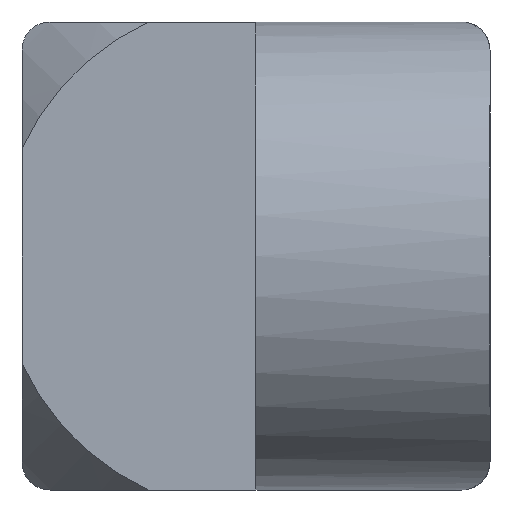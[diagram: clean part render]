
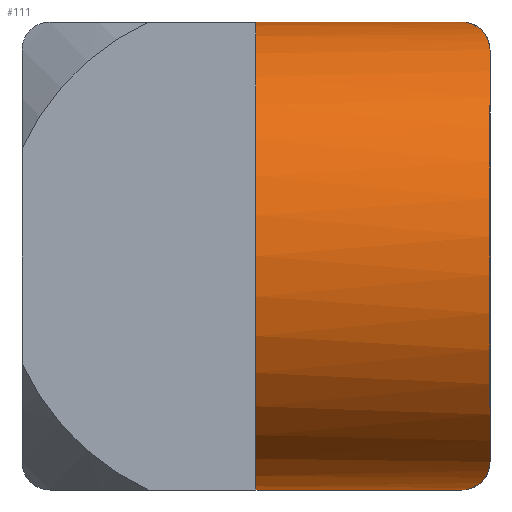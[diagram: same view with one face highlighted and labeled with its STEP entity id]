
A CAD part, left-side view. The second image highlights one B-rep face of the part: STEP entity #111.
In plain terms, the highlighted cylindrical face has radius 12.5 mm (diameter 25 mm), a partial arc.
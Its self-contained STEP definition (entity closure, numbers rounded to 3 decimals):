
#111 = ADVANCED_FACE( '', ( #212 ), #213, .T. );
#212 = FACE_OUTER_BOUND( '', #314, .T. );
#213 = CYLINDRICAL_SURFACE( '', #315, 12.5 );
#314 = EDGE_LOOP( '', ( #558, #559, #560, #561, #562, #563 ) );
#315 = AXIS2_PLACEMENT_3D( '', #564, #565, #566 );
#558 = ORIENTED_EDGE( '', *, *, #581, .T. );
#559 = ORIENTED_EDGE( '', *, *, #646, .T. );
#560 = ORIENTED_EDGE( '', *, *, #603, .T. );
#561 = ORIENTED_EDGE( '', *, *, #598, .T. );
#562 = ORIENTED_EDGE( '', *, *, #595, .F. );
#563 = ORIENTED_EDGE( '', *, *, #630, .F. );
#564 = CARTESIAN_POINT( '', ( 12.5, 25., 0. ) );
#565 = DIRECTION( '', ( 0., 1., 0. ) );
#566 = DIRECTION( '', ( 0., 0., -1. ) );
#581 = EDGE_CURVE( '', #660, #658, #661, .T. );
#595 = EDGE_CURVE( '', #686, #688, #689, .T. );
#598 = EDGE_CURVE( '', #693, #688, #694, .T. );
#603 = EDGE_CURVE( '', #701, #693, #702, .T. );
#630 = EDGE_CURVE( '', #660, #686, #744, .T. );
#646 = EDGE_CURVE( '', #658, #701, #768, .F. );
#658 = VERTEX_POINT( '', #785 );
#660 = VERTEX_POINT( '', #788 );
#661 = LINE( '', #789, #790 );
#686 = VERTEX_POINT( '', #847 );
#688 = VERTEX_POINT( '', #850 );
#689 = LINE( '', #851, #852 );
#693 = VERTEX_POINT( '', #868 );
#694 = B_SPLINE_CURVE_WITH_KNOTS( '', 3, ( #869, #870, #871, #872, #873, #874, #875, #876, #877, #878, #879, #880 ), .UNSPECIFIED., .F., .F., ( 4, 2, 2, 2, 2, 4 ), ( 0., 0.002, 0.003, 0.005, 0.006, 0.006 ), .UNSPECIFIED. );
#701 = VERTEX_POINT( '', #895 );
#702 = CIRCLE( '', #896, 12.5 );
#744 = CIRCLE( '', #1018, 12.5 );
#768 = B_SPLINE_CURVE_WITH_KNOTS( '', 3, ( #1053, #1054, #1055, #1056, #1057, #1058, #1059, #1060, #1061, #1062, #1063, #1064 ), .UNSPECIFIED., .F., .F., ( 4, 2, 2, 2, 2, 4 ), ( 0., 0.002, 0.003, 0.005, 0.006, 0.006 ), .UNSPECIFIED. );
#785 = CARTESIAN_POINT( '', ( 12.5, 1.5, -12.5 ) );
#788 = CARTESIAN_POINT( '', ( 12.5, 12.5, -12.5 ) );
#789 = CARTESIAN_POINT( '', ( 12.5, 25., -12.5 ) );
#790 = VECTOR( '', #1078, 1000. );
#847 = CARTESIAN_POINT( '', ( 12.5, 12.5, 12.5 ) );
#850 = CARTESIAN_POINT( '', ( 12.5, 1.5, 12.5 ) );
#851 = CARTESIAN_POINT( '', ( 12.5, 25., 12.5 ) );
#852 = VECTOR( '', #1087, 1000. );
#868 = CARTESIAN_POINT( '', ( 6.563, 0., 11. ) );
#869 = CARTESIAN_POINT( '', ( 6.563, 0., 11. ) );
#870 = CARTESIAN_POINT( '', ( 7.037, 0., 11.256 ) );
#871 = CARTESIAN_POINT( '', ( 7.518, 0.062, 11.476 ) );
#872 = CARTESIAN_POINT( '', ( 8.497, 0.249, 11.853 ) );
#873 = CARTESIAN_POINT( '', ( 8.998, 0.375, 12.01 ) );
#874 = CARTESIAN_POINT( '', ( 9.994, 0.66, 12.257 ) );
#875 = CARTESIAN_POINT( '', ( 10.492, 0.818, 12.348 ) );
#876 = CARTESIAN_POINT( '', ( 11.242, 1.068, 12.439 ) );
#877 = CARTESIAN_POINT( '', ( 11.492, 1.153, 12.462 ) );
#878 = CARTESIAN_POINT( '', ( 11.995, 1.325, 12.492 ) );
#879 = CARTESIAN_POINT( '', ( 12.249, 1.413, 12.5 ) );
#880 = CARTESIAN_POINT( '', ( 12.5, 1.5, 12.5 ) );
#895 = CARTESIAN_POINT( '', ( 6.563, 0., -11. ) );
#896 = AXIS2_PLACEMENT_3D( '', #1096, #1097, #1098 );
#1018 = AXIS2_PLACEMENT_3D( '', #1136, #1137, #1138 );
#1053 = CARTESIAN_POINT( '', ( 6.563, 0., -11. ) );
#1054 = CARTESIAN_POINT( '', ( 7.037, 0., -11.256 ) );
#1055 = CARTESIAN_POINT( '', ( 7.518, 0.062, -11.476 ) );
#1056 = CARTESIAN_POINT( '', ( 8.497, 0.249, -11.853 ) );
#1057 = CARTESIAN_POINT( '', ( 8.998, 0.375, -12.01 ) );
#1058 = CARTESIAN_POINT( '', ( 9.994, 0.66, -12.257 ) );
#1059 = CARTESIAN_POINT( '', ( 10.492, 0.818, -12.348 ) );
#1060 = CARTESIAN_POINT( '', ( 11.242, 1.068, -12.439 ) );
#1061 = CARTESIAN_POINT( '', ( 11.492, 1.153, -12.462 ) );
#1062 = CARTESIAN_POINT( '', ( 11.995, 1.325, -12.492 ) );
#1063 = CARTESIAN_POINT( '', ( 12.249, 1.413, -12.5 ) );
#1064 = CARTESIAN_POINT( '', ( 12.5, 1.5, -12.5 ) );
#1078 = DIRECTION( '', ( 0., -1., 0. ) );
#1087 = DIRECTION( '', ( 0., -1., 0. ) );
#1096 = CARTESIAN_POINT( '', ( 12.5, 0., 0. ) );
#1097 = DIRECTION( '', ( 0., 1., 0. ) );
#1098 = DIRECTION( '', ( 1., 0., 0. ) );
#1136 = CARTESIAN_POINT( '', ( 12.5, 12.5, 0. ) );
#1137 = DIRECTION( '', ( 0., 1., 0. ) );
#1138 = DIRECTION( '', ( 0., 0., 1. ) );
